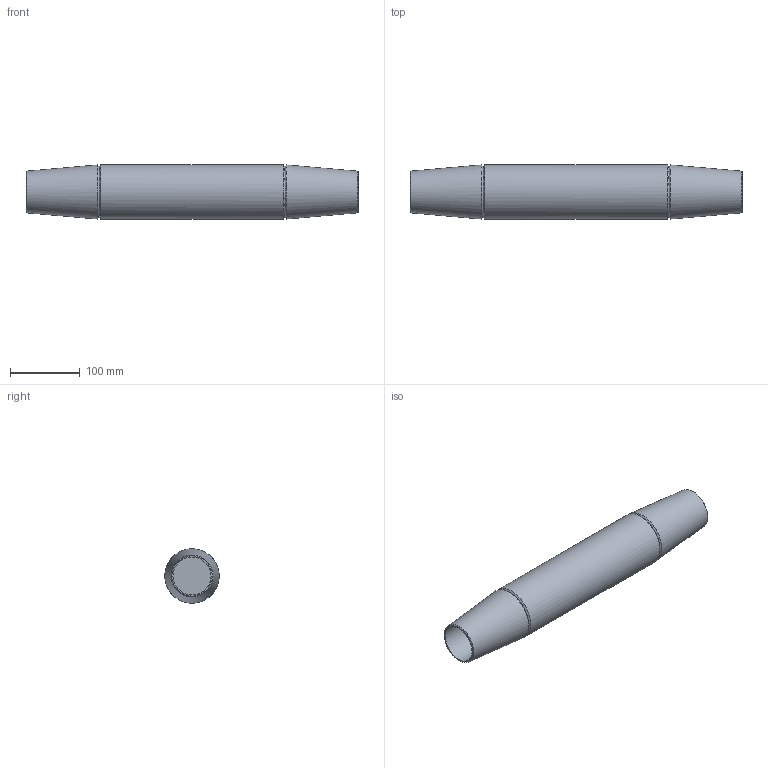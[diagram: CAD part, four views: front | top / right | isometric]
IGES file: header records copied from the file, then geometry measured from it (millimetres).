
Global section: file name: 520-052-MUF; native system: Autodesk Inventor 2016; preprocessor: unknown; author: Administrator; date: 20200630.131809; units: centimetre
Bounding box: 476 x 78 x 77.91 mm (x, y, z)
Volume: 1686529.1 mm3; surface area: 143924.7 mm2
Topology: 1 solids, 1 shells, 15 faces, 35 edges, 24 vertices
Faces by surface type: bspline 15
